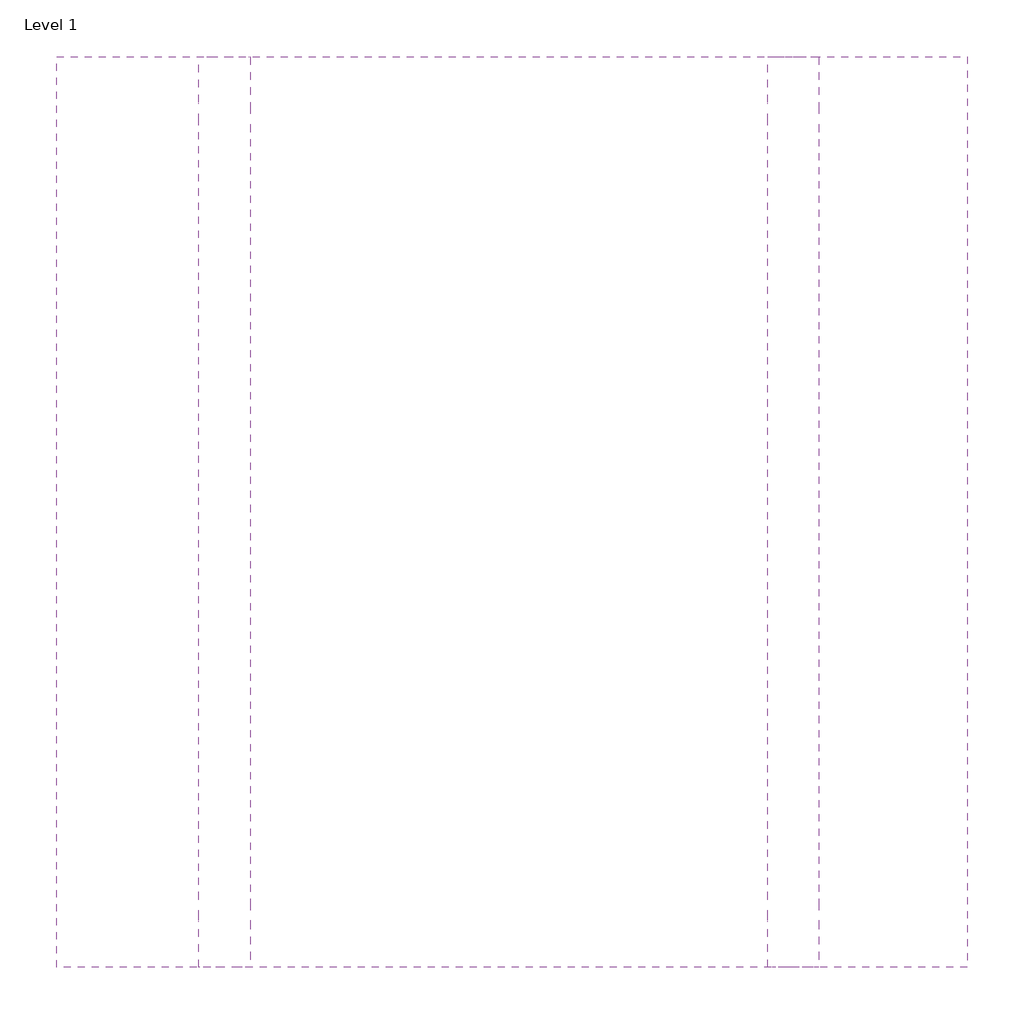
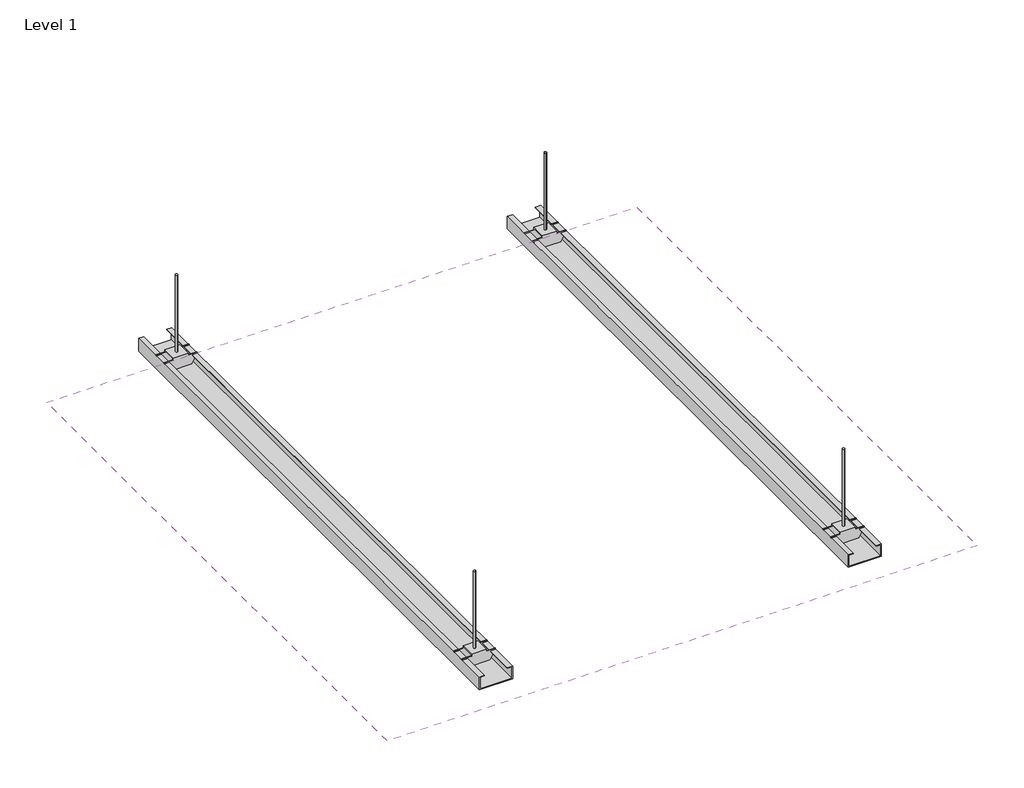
# One storey: 2 proxies, 1 covering.
"""IFC4 building model written with IfcOpenShell, lengths in millimetres."""

from ifc_helpers import new_model, si_unit, frame, origin, place, context, project, spatial, polyline, outline, extrude, transform, mapped, element, save
from components import estructura_techo_placo_f_530_ab943d43

model = new_model("IFC4")

# Units and contexts
model_context = context("Model", 3, world=origin())
ifc_project = project(units=[si_unit("LENGTHUNIT", "METRE", prefix="MILLI")], contexts=[model_context])

# Site, building, storey
site = spatial("IfcSite", under=ifc_project)
building = spatial("IfcBuilding", under=site)
storey = spatial("IfcBuildingStorey", under=building, Name="Level 1", Elevation=0.0)

# Proxies
placement = place(None, origin())
estructura_techo_placo_f_530_shape = estructura_techo_placo_f_530_ab943d43(model_context)
element("IfcBuildingElementProxy", 1, Name="Estructura-Techo_Placo_F-530 : Perfil Primario", ObjectType="Estructura-Techo_Placo_F-530 : Perfil Primario", at=placement, inside=storey, context=model_context, shape_type="MappedRepresentation", body=[
    mapped(estructura_techo_placo_f_530_shape, transform((-29881.5080756, -2004.2801864, 2612.0), x_axis=(0.0, -1.0, 0.0), y_axis=(1.0, 0.0, 0.0), z_axis=(0.0, 0.0, 1.0))),
])
element("IfcBuildingElementProxy", 2, Name="Estructura-Techo_Placo_F-530 : Perfil Primario", ObjectType="Estructura-Techo_Placo_F-530 : Perfil Primario", at=placement, inside=storey, context=model_context, shape_type="MappedRepresentation", body=[
    mapped(estructura_techo_placo_f_530_shape, transform((-29381.5080756, -2004.2801864, 2612.0), x_axis=(0.0, -1.0, 0.0), y_axis=(1.0, 0.0, 0.0), z_axis=(0.0, 0.0, 1.0))),
])

# Covering
element("IfcCovering", 3, ObjectType="Techo continuo Placo® EI 60 con LM Isover", at=placement, inside=storey, context=model_context, shape_type="SweptSolid", body=[
    extrude(outline(polyline([(-29228.7888787, -2004.2801864), (-29228.7888787, -2804.2801864), (-30028.7888787, -2804.2801864), (-30028.7888787, -2004.2801864), (-29228.7888787, -2004.2801864)])), frame((0.0, 0.0, 2600.0), z_axis=(0.0, 0.0, 1.0), x_axis=(1.0, 0.0, 0.0)), (0.0, 0.0, 1.0), 230.0),
])

save(model, "model.ifc")
